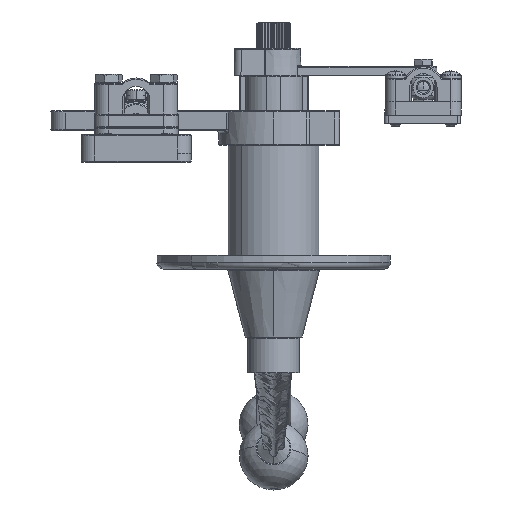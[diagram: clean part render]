
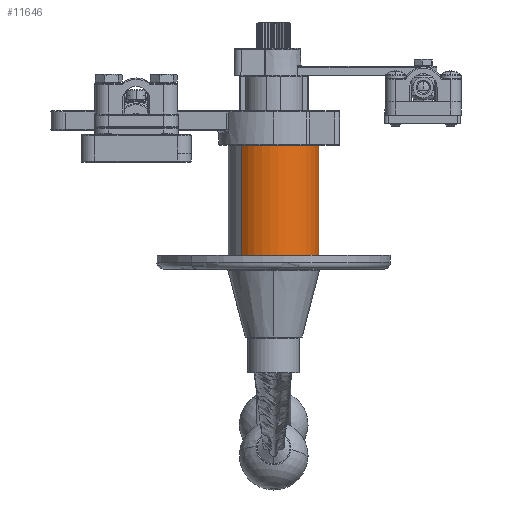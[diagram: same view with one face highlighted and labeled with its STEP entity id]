
A CAD part, front view. The second image highlights one B-rep face of the part: STEP entity #11646.
In plain terms, the highlighted cylindrical face has radius 20.955 mm (diameter 41.91 mm), a partial arc.
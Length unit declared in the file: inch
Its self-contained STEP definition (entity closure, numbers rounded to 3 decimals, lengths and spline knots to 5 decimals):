
#2566 = VERTEX_POINT ( 'NONE', #22774 ) ;
#4295 = VECTOR ( 'NONE', #29241, 39.37008 ) ;
#9192 = DIRECTION ( 'NONE',  ( 0.707, 0.707, 0. ) ) ;
#9440 = DIRECTION ( 'NONE',  ( 0., 0., 1. ) ) ;
#11467 = ORIENTED_EDGE ( 'NONE', *, *, #17818, .T. ) ;
#11646 = ADVANCED_FACE ( 'NONE', ( #36172 ), #28441, .T. ) ;
#14364 = EDGE_CURVE ( 'NONE', #38590, #2566, #44980, .T. ) ;
#14858 = AXIS2_PLACEMENT_3D ( 'NONE', #33668, #41073, #26185 ) ;
#15379 = CARTESIAN_POINT ( 'NONE',  ( -0.58336, -0.58336, -2. ) ) ;
#16296 = AXIS2_PLACEMENT_3D ( 'NONE', #31811, #9440, #9192 ) ;
#16338 = CARTESIAN_POINT ( 'NONE',  ( 0., 0., 0. ) ) ;
#17351 = LINE ( 'NONE', #33478, #4295 ) ;
#17818 = EDGE_CURVE ( 'NONE', #35709, #46309, #24207, .T. ) ;
#19471 = EDGE_CURVE ( 'NONE', #35709, #38590, #25579, .T. ) ;
#22224 = EDGE_LOOP ( 'NONE', ( #45248, #11467, #48268, #46071 ) ) ;
#22774 = CARTESIAN_POINT ( 'NONE',  ( 0.58336, 0.58336, 0. ) ) ;
#24207 = CIRCLE ( 'NONE', #16296, 0.825 ) ;
#25579 = LINE ( 'NONE', #40679, #33766 ) ;
#26185 = DIRECTION ( 'NONE',  ( 0.707, 0.707, 0. ) ) ;
#28441 = CYLINDRICAL_SURFACE ( 'NONE', #14858, 0.825 ) ;
#29241 = DIRECTION ( 'NONE',  ( 0., 0., 1. ) ) ;
#31811 = CARTESIAN_POINT ( 'NONE',  ( 0., 0., -2. ) ) ;
#32040 = CARTESIAN_POINT ( 'NONE',  ( 0.58336, 0.58336, -2. ) ) ;
#32215 = DIRECTION ( 'NONE',  ( 0., 0., 1. ) ) ;
#33478 = CARTESIAN_POINT ( 'NONE',  ( 0.58336, 0.58336, 0. ) ) ;
#33668 = CARTESIAN_POINT ( 'NONE',  ( 0., 0., 0. ) ) ;
#33766 = VECTOR ( 'NONE', #36520, 39.37008 ) ;
#35698 = DIRECTION ( 'NONE',  ( 0.707, 0.707, 0. ) ) ;
#35709 = VERTEX_POINT ( 'NONE', #15379 ) ;
#36172 = FACE_OUTER_BOUND ( 'NONE', #22224, .T. ) ;
#36520 = DIRECTION ( 'NONE',  ( 0., 0., 1. ) ) ;
#38590 = VERTEX_POINT ( 'NONE', #42934 ) ;
#40679 = CARTESIAN_POINT ( 'NONE',  ( -0.58336, -0.58336, 0. ) ) ;
#41054 = AXIS2_PLACEMENT_3D ( 'NONE', #16338, #32215, #35698 ) ;
#41073 = DIRECTION ( 'NONE',  ( 0., 0., 1. ) ) ;
#41915 = EDGE_CURVE ( 'NONE', #46309, #2566, #17351, .T. ) ;
#42934 = CARTESIAN_POINT ( 'NONE',  ( -0.58336, -0.58336, 0. ) ) ;
#44980 = CIRCLE ( 'NONE', #41054, 0.825 ) ;
#45248 = ORIENTED_EDGE ( 'NONE', *, *, #19471, .F. ) ;
#46071 = ORIENTED_EDGE ( 'NONE', *, *, #14364, .F. ) ;
#46309 = VERTEX_POINT ( 'NONE', #32040 ) ;
#48268 = ORIENTED_EDGE ( 'NONE', *, *, #41915, .T. ) ;
